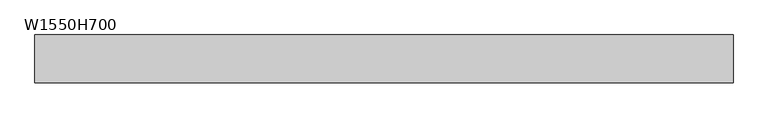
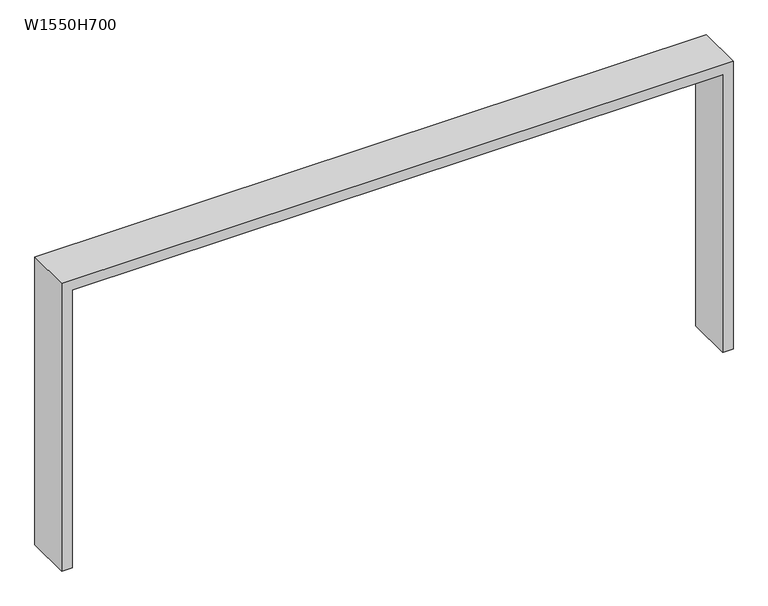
"""IFC4 building model written with IfcOpenShell, lengths in millimetres: proxy geometry, 開口枠 - 鋼製 1 : W1550H700."""

from ifc_helpers import new_model, si_unit, frame, origin, place, context, project, spatial, polyline, outline, extrude, source, transform, mapped, element, save


def w1550h700_1b11893a(model_context):
    return source(origin(), model_context, "Body", "SweptSolid", [
        extrude(outline(polyline([(0.0, -675.0), (0.0, -650.0), (700.0, -650.0), (700.0, 900.0), (0.0, 900.0), (0.0, 925.0), (725.0, 925.0), (725.0, -675.0), (0.0, -675.0)])), frame((0.0, -55.0, 0.0), z_axis=(0.0, 1.0, 0.0), x_axis=(0.0, 0.0, 1.0)), (0.0, 0.0, 1.0), 110.0),
    ])


if __name__ == "__main__":
    model = new_model("IFC4")
    model_context = context("Model", 3, world=origin())
    ifc_project = project(units=[si_unit("LENGTHUNIT", "METRE", prefix="MILLI")], contexts=[model_context])
    site = spatial("IfcSite", under=ifc_project)
    building = spatial("IfcBuilding", under=site)
    placement = place(None, origin())
    w1550h700_shape = w1550h700_1b11893a(model_context)
    element("IfcBuildingElementProxy", 1, Name="開口枠 - 鋼製 1 : W1550H700", ObjectType="開口枠 - 鋼製 1 : W1550H700", at=placement, inside=building, context=model_context, shape_type="MappedRepresentation", body=[
        mapped(w1550h700_shape, transform((0.0, 0.0, 0.0), x_axis=(1.0, 0.0, 0.0), y_axis=(0.0, 1.0, 0.0), z_axis=(0.0, 0.0, 1.0))),
    ])
    save(model, "model.ifc")
